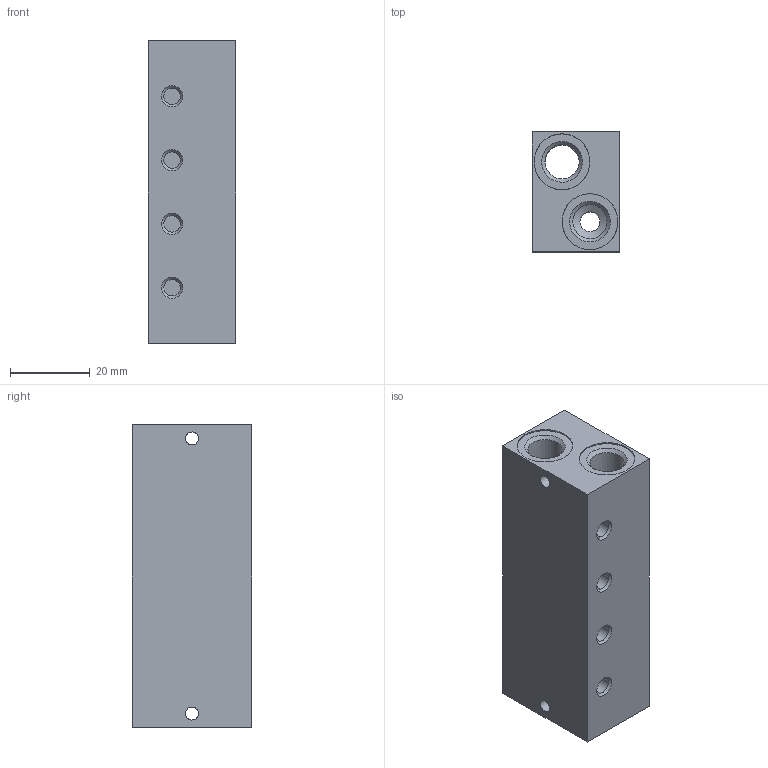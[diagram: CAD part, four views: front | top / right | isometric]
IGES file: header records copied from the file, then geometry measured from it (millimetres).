
Global section: file name: 355_04; native system: Autodesk Inventor 2014; preprocessor: unknown; author: R.Rivoltella; organization: Pneumax S.p.A.; date: 20161003.105248; units: millimetre
Bounding box: 22 x 30 x 76 mm (x, y, z)
Volume: 42276.3 mm3; surface area: 13616.3 mm2
Topology: 1 solids, 1 shells, 66 faces, 192 edges, 138 vertices
Faces by surface type: bspline 66
